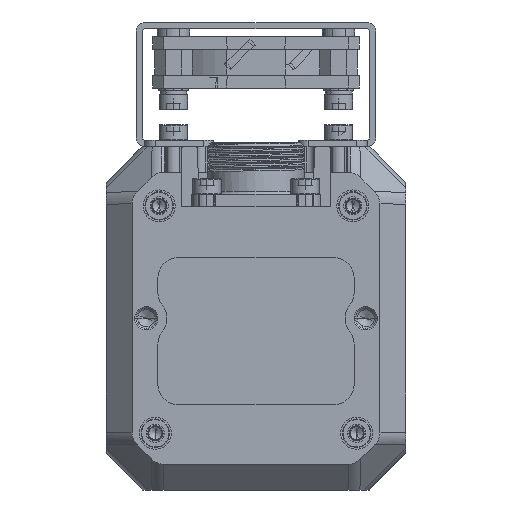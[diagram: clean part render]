
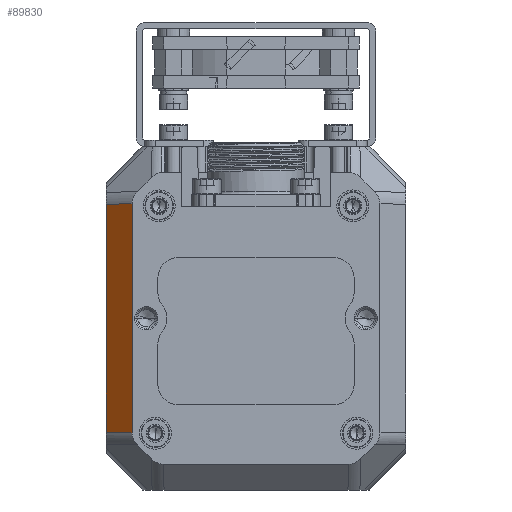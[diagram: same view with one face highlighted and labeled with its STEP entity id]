
A CAD part, front view. The second image highlights one B-rep face of the part: STEP entity #89830.
In plain terms, the highlighted planar face has unit normal (-0.707, -0.707, 0).
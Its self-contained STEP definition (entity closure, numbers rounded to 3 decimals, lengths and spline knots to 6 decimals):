
#17798=CARTESIAN_POINT('',(-0.024,-0.385,-0.055435));
#17806=DIRECTION('',(0.707,-0.707,-0.02));
#17807=VECTOR('',#17806,0.007072);
#17808=CARTESIAN_POINT('',(-0.029,-0.38,-0.055297));
#17809=LINE('',#17808,#17807);
#17810=DIRECTION('',(0.,0.,-1.));
#17811=VECTOR('',#17810,0.044094);
#17812=CARTESIAN_POINT('',(-0.029,-0.38,-0.011203));
#17813=LINE('',#17812,#17811);
#17814=DIRECTION('',(-0.707,0.707,-0.02));
#17815=VECTOR('',#17814,0.007072);
#17816=CARTESIAN_POINT('',(-0.024,-0.385,-0.011065));
#17817=LINE('',#17816,#17815);
#17818=DIRECTION('',(0.,0.,1.));
#17819=VECTOR('',#17818,0.044371);
#17820=CARTESIAN_POINT('',(-0.024,-0.385,-0.055435));
#17821=LINE('',#17820,#17819);
#17832=CARTESIAN_POINT('',(-0.029,-0.38,-0.011203));
#49627=VERTEX_POINT('',#17798);
#49628=CARTESIAN_POINT('',(-0.024,-0.385,-0.011065));
#49629=VERTEX_POINT('',#49628);
#49839=VERTEX_POINT('',#17832);
#49840=CARTESIAN_POINT('',(-0.029,-0.38,-0.055297));
#49841=VERTEX_POINT('',#49840);
#89817=CARTESIAN_POINT('',(-0.0265,-0.3825,-0.03325));
#89818=DIRECTION('',(-0.707,-0.707,0.));
#89819=DIRECTION('',(-0.707,0.707,0.));
#89820=AXIS2_PLACEMENT_3D('',#89817,#89818,#89819);
#89821=PLANE('',#89820);
#89822=ORIENTED_EDGE('',*,*,#89801,.F.);
#89823=ORIENTED_EDGE('',*,*,#67923,.F.);
#89825=ORIENTED_EDGE('',*,*,#89824,.F.);
#89827=ORIENTED_EDGE('',*,*,#89826,.F.);
#89828=EDGE_LOOP('',(#89822,#89823,#89825,#89827));
#89829=FACE_OUTER_BOUND('',#89828,.F.);
#67923=EDGE_CURVE('',#49839,#49841,#17813,.T.);
#89801=EDGE_CURVE('',#49841,#49627,#17809,.T.);
#89824=EDGE_CURVE('',#49629,#49839,#17817,.T.);
#89826=EDGE_CURVE('',#49627,#49629,#17821,.T.);
#89830=ADVANCED_FACE('',(#89829),#89821,.T.);
